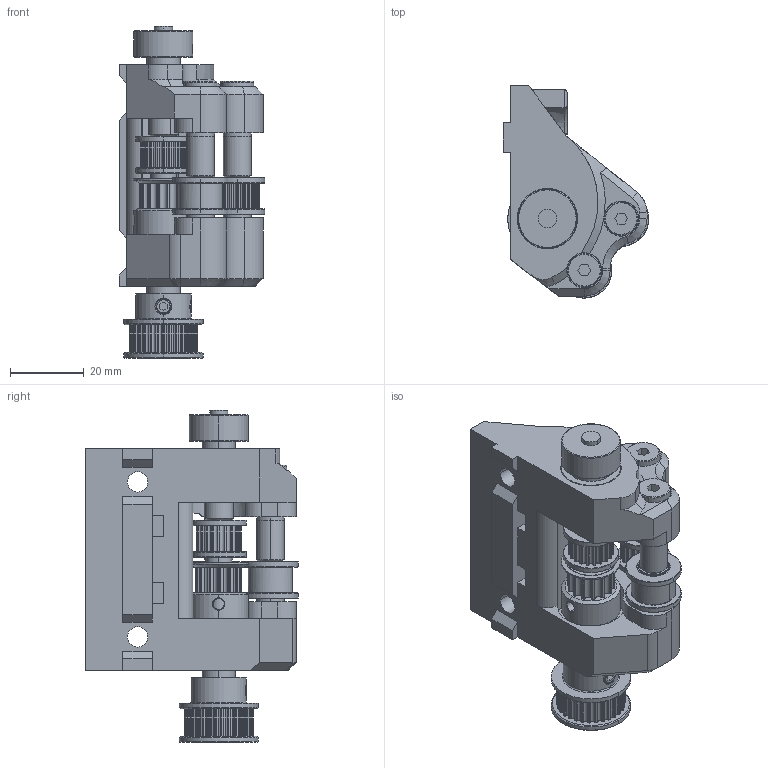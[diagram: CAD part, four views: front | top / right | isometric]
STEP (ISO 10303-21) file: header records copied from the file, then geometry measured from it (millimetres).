
FILE_DESCRIPTION(('CATIA V5 STEP Exchange'),'2;1');
FILE_NAME('C:\Users\Bruno.E\Desktop\Projet Belt\Support Arriere\HYPERCUBE-EVO-B006_D.stp','2021-01-19T12:54:36+00:00',('none'),('none'),'CATIA Version 5 Release 21 GA (IN-10)','CATIA V5 STEP AP203','none');
FILE_SCHEMA(('CONFIG_CONTROL_DESIGN'));
Products named in the file (1): HYPERCUBE-EVO-B006_NGEN_AllCATPart
Bounding box: 39.5 x 57.5 x 90 mm (x, y, z)
Volume: 59995.9 mm3; surface area: 37237.6 mm2
Topology: 83 solids, 85 shells, 2192 faces, 5594 edges, 3260 vertices
Faces by surface type: cylinder 1064, sphere 384, plane 288, cone 222, torus 214, bspline 18, extrusion 2
Entity records: 68596 total; most frequent: CARTESIAN_POINT 20733, ORIENTED_EDGE 10388, DIRECTION 8323, EDGE_CURVE 5210, AXIS2_PLACEMENT_3D 4638, VERTEX_POINT 3260, CIRCLE 2550, EDGE_LOOP 2358
